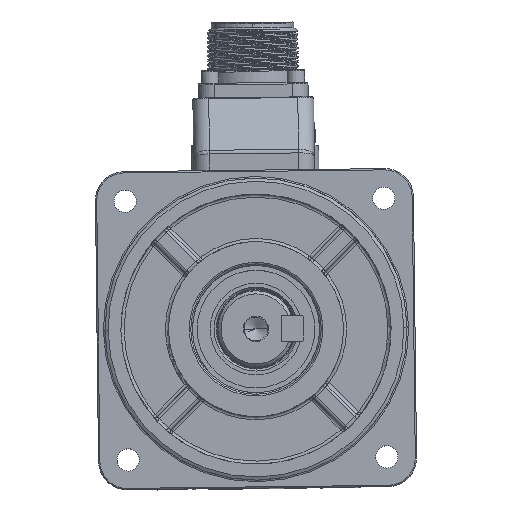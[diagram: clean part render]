
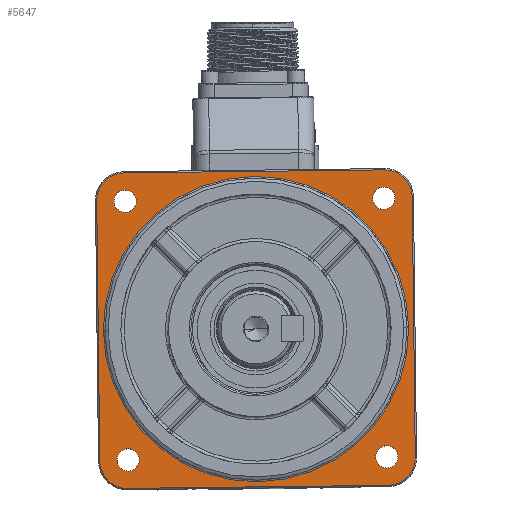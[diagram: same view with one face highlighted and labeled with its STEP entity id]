
A CAD part, top view. The second image highlights one B-rep face of the part: STEP entity #5647.
In plain terms, the highlighted planar face has unit normal (0, 0, 1) as drawn and (0, 1, 0) by its records, which use the part's own axes.
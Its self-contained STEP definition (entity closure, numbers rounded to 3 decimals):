
#150=CARTESIAN_POINT('',(0.,0.,0.));
#151=DIRECTION('',(0.,-1.,0.));
#152=DIRECTION('',(-1.,0.,0.006));
#153=AXIS2_PLACEMENT_3D('',#150,#151,#152);
#170=CARTESIAN_POINT('',(0.,0.,0.));
#171=DIRECTION('',(0.,-1.,0.));
#172=DIRECTION('',(1.,0.,-0.006));
#173=AXIS2_PLACEMENT_3D('',#170,#171,#172);
#175=CARTESIAN_POINT('',(-41.,0.,-41.));
#176=DIRECTION('',(0.,-1.,0.));
#177=DIRECTION('',(-1.,0.,0.));
#178=AXIS2_PLACEMENT_3D('',#175,#176,#177);
#180=CARTESIAN_POINT('',(41.,0.,-41.));
#181=DIRECTION('',(0.,-1.,0.));
#182=DIRECTION('',(0.,0.,-1.));
#183=AXIS2_PLACEMENT_3D('',#180,#181,#182);
#185=CARTESIAN_POINT('',(41.,0.,41.));
#186=DIRECTION('',(0.,-1.,0.));
#187=DIRECTION('',(1.,0.,0.));
#188=AXIS2_PLACEMENT_3D('',#185,#186,#187);
#190=CARTESIAN_POINT('',(-41.,0.,41.));
#191=DIRECTION('',(0.,-1.,0.));
#192=DIRECTION('',(0.,0.,1.));
#193=AXIS2_PLACEMENT_3D('',#190,#191,#192);
#195=CARTESIAN_POINT('',(-40.659,0.,-40.659));
#196=DIRECTION('',(0.,1.,0.));
#197=DIRECTION('',(0.,0.,1.));
#198=AXIS2_PLACEMENT_3D('',#195,#196,#197);
#200=CARTESIAN_POINT('',(-40.659,0.,-40.659));
#201=DIRECTION('',(0.,1.,0.));
#202=DIRECTION('',(0.,0.,-1.));
#203=AXIS2_PLACEMENT_3D('',#200,#201,#202);
#205=CARTESIAN_POINT('',(-40.659,0.,40.659));
#206=DIRECTION('',(0.,1.,0.));
#207=DIRECTION('',(1.,0.,0.));
#208=AXIS2_PLACEMENT_3D('',#205,#206,#207);
#210=CARTESIAN_POINT('',(-40.659,0.,40.659));
#211=DIRECTION('',(0.,1.,0.));
#212=DIRECTION('',(-1.,0.,0.));
#213=AXIS2_PLACEMENT_3D('',#210,#211,#212);
#215=CARTESIAN_POINT('',(40.659,0.,40.659));
#216=DIRECTION('',(0.,1.,0.));
#217=DIRECTION('',(0.,0.,-1.));
#218=AXIS2_PLACEMENT_3D('',#215,#216,#217);
#220=CARTESIAN_POINT('',(40.659,0.,40.659));
#221=DIRECTION('',(0.,1.,0.));
#222=DIRECTION('',(0.,0.,1.));
#223=AXIS2_PLACEMENT_3D('',#220,#221,#222);
#225=CARTESIAN_POINT('',(0.,0.,0.));
#226=DIRECTION('',(0.,1.,0.));
#227=DIRECTION('',(-1.,0.,0.006));
#228=AXIS2_PLACEMENT_3D('',#225,#226,#227);
#230=CARTESIAN_POINT('',(0.,0.,0.));
#231=DIRECTION('',(0.,1.,0.));
#232=DIRECTION('',(1.,0.,-0.006));
#233=AXIS2_PLACEMENT_3D('',#230,#231,#232);
#235=CARTESIAN_POINT('',(40.659,0.,-40.659));
#236=DIRECTION('',(0.,1.,0.));
#237=DIRECTION('',(-1.,0.,0.));
#238=AXIS2_PLACEMENT_3D('',#235,#236,#237);
#240=CARTESIAN_POINT('',(40.659,0.,-40.659));
#241=DIRECTION('',(0.,1.,0.));
#242=DIRECTION('',(1.,0.,0.));
#243=AXIS2_PLACEMENT_3D('',#240,#241,#242);
#254=DIRECTION('',(0.,0.,1.));
#255=VECTOR('',#254,82.);
#256=CARTESIAN_POINT('',(-49.6,0.,
-41.));
#257=LINE('',#256,#255);
#271=DIRECTION('',(1.,0.,0.));
#272=VECTOR('',#271,82.);
#273=CARTESIAN_POINT('',(-41.,0.,
49.6));
#274=LINE('',#273,#272);
#288=DIRECTION('',(0.,0.,-1.));
#289=VECTOR('',#288,82.);
#290=CARTESIAN_POINT('',(49.6,0.,41.));
#291=LINE('',#290,#289);
#305=DIRECTION('',(-1.,0.,0.));
#306=VECTOR('',#305,82.);
#307=CARTESIAN_POINT('',(41.,0.,
-49.6));
#308=LINE('',#307,#306);
#4379=CARTESIAN_POINT('',(48.,0.,0.));
#4380=VERTEX_POINT('',#4379);
#4381=CARTESIAN_POINT('',(-47.999,0.,0.284));
#4382=VERTEX_POINT('',#4381);
#4383=CARTESIAN_POINT('',(-48.,0.,0.));
#4384=VERTEX_POINT('',#4383);
#4385=CARTESIAN_POINT('',(47.999,0.,-0.284));
#4386=VERTEX_POINT('',#4385);
#4387=CARTESIAN_POINT('',(-49.6,0.,-41.));
#4388=CARTESIAN_POINT('',(-41.,0.,-49.6));
#4389=VERTEX_POINT('',#4387);
#4390=VERTEX_POINT('',#4388);
#4391=CARTESIAN_POINT('',(41.,0.,
-49.6));
#4392=VERTEX_POINT('',#4391);
#4393=CARTESIAN_POINT('',(49.6,0.,-41.));
#4394=VERTEX_POINT('',#4393);
#4395=CARTESIAN_POINT('',(49.6,0.,
41.));
#4396=VERTEX_POINT('',#4395);
#4397=CARTESIAN_POINT('',(41.,0.,49.6));
#4398=VERTEX_POINT('',#4397);
#4399=CARTESIAN_POINT('',(-41.,0.,
49.6));
#4400=VERTEX_POINT('',#4399);
#4401=CARTESIAN_POINT('',(-49.6,0.,41.));
#4402=VERTEX_POINT('',#4401);
#4403=CARTESIAN_POINT('',(-40.659,0.,-37.159));
#4404=CARTESIAN_POINT('',(-40.659,0.,-44.159));
#4405=VERTEX_POINT('',#4403);
#4406=VERTEX_POINT('',#4404);
#4407=CARTESIAN_POINT('',(-37.159,0.,40.659));
#4408=CARTESIAN_POINT('',(-44.159,0.,40.659));
#4409=VERTEX_POINT('',#4407);
#4410=VERTEX_POINT('',#4408);
#4411=CARTESIAN_POINT('',(40.659,0.,37.159));
#4412=CARTESIAN_POINT('',(40.659,0.,44.159));
#4413=VERTEX_POINT('',#4411);
#4414=VERTEX_POINT('',#4412);
#4415=CARTESIAN_POINT('',(37.159,0.,-40.659));
#4416=CARTESIAN_POINT('',(44.159,0.,-40.659));
#4417=VERTEX_POINT('',#4415);
#4418=VERTEX_POINT('',#4416);
#5594=CARTESIAN_POINT('',(0.,0.,0.));
#5595=DIRECTION('',(0.,-1.,0.));
#5596=DIRECTION('',(-1.,0.,0.));
#5597=AXIS2_PLACEMENT_3D('',#5594,#5595,#5596);
#5598=PLANE('',#5597);
#5600=ORIENTED_EDGE('',*,*,#5599,.T.);
#5602=ORIENTED_EDGE('',*,*,#5601,.F.);
#5604=ORIENTED_EDGE('',*,*,#5603,.T.);
#5606=ORIENTED_EDGE('',*,*,#5605,.F.);
#5608=ORIENTED_EDGE('',*,*,#5607,.T.);
#5610=ORIENTED_EDGE('',*,*,#5609,.F.);
#5612=ORIENTED_EDGE('',*,*,#5611,.T.);
#5614=ORIENTED_EDGE('',*,*,#5613,.F.);
#5615=EDGE_LOOP('',(#5600,#5602,#5604,#5606,#5608,#5610,#5612,#5614));
#5616=FACE_OUTER_BOUND('',#5615,.F.);
#5618=ORIENTED_EDGE('',*,*,#5617,.T.);
#5620=ORIENTED_EDGE('',*,*,#5619,.T.);
#5621=EDGE_LOOP('',(#5618,#5620));
#5622=FACE_BOUND('',#5621,.F.);
#5624=ORIENTED_EDGE('',*,*,#5623,.T.);
#5626=ORIENTED_EDGE('',*,*,#5625,.T.);
#5627=EDGE_LOOP('',(#5624,#5626));
#5628=FACE_BOUND('',#5627,.F.);
#5630=ORIENTED_EDGE('',*,*,#5629,.T.);
#5632=ORIENTED_EDGE('',*,*,#5631,.T.);
#5633=EDGE_LOOP('',(#5630,#5632));
#5634=FACE_BOUND('',#5633,.F.);
#5635=ORIENTED_EDGE('',*,*,#5571,.F.);
#5636=ORIENTED_EDGE('',*,*,#5569,.T.);
#5637=ORIENTED_EDGE('',*,*,#5588,.F.);
#5638=ORIENTED_EDGE('',*,*,#5586,.T.);
#5639=EDGE_LOOP('',(#5635,#5636,#5637,#5638));
#5640=FACE_BOUND('',#5639,.F.);
#5642=ORIENTED_EDGE('',*,*,#5641,.T.);
#5644=ORIENTED_EDGE('',*,*,#5643,.T.);
#5645=EDGE_LOOP('',(#5642,#5644));
#5646=FACE_BOUND('',#5645,.F.);
#5647=ADVANCED_FACE('',(#5616,#5622,#5628,#5634,#5640,#5646),#5598,.F.);
#154=CIRCLE('',#153,48.);
#174=CIRCLE('',#173,48.);
#179=CIRCLE('',#178,8.6);
#184=CIRCLE('',#183,8.6);
#189=CIRCLE('',#188,8.6);
#194=CIRCLE('',#193,8.6);
#199=CIRCLE('',#198,3.5);
#204=CIRCLE('',#203,3.5);
#209=CIRCLE('',#208,3.5);
#214=CIRCLE('',#213,3.5);
#219=CIRCLE('',#218,3.5);
#224=CIRCLE('',#223,3.5);
#229=CIRCLE('',#228,48.);
#234=CIRCLE('',#233,48.);
#239=CIRCLE('',#238,3.5);
#244=CIRCLE('',#243,3.5);
#5569=EDGE_CURVE('',#4382,#4380,#229,.T.);
#5571=EDGE_CURVE('',#4382,#4384,#154,.T.);
#5586=EDGE_CURVE('',#4386,#4384,#234,.T.);
#5588=EDGE_CURVE('',#4386,#4380,#174,.T.);
#5599=EDGE_CURVE('',#4389,#4390,#179,.T.);
#5601=EDGE_CURVE('',#4392,#4390,#308,.T.);
#5603=EDGE_CURVE('',#4392,#4394,#184,.T.);
#5605=EDGE_CURVE('',#4396,#4394,#291,.T.);
#5607=EDGE_CURVE('',#4396,#4398,#189,.T.);
#5609=EDGE_CURVE('',#4400,#4398,#274,.T.);
#5611=EDGE_CURVE('',#4400,#4402,#194,.T.);
#5613=EDGE_CURVE('',#4389,#4402,#257,.T.);
#5617=EDGE_CURVE('',#4405,#4406,#199,.T.);
#5619=EDGE_CURVE('',#4406,#4405,#204,.T.);
#5623=EDGE_CURVE('',#4409,#4410,#209,.T.);
#5625=EDGE_CURVE('',#4410,#4409,#214,.T.);
#5629=EDGE_CURVE('',#4413,#4414,#219,.T.);
#5631=EDGE_CURVE('',#4414,#4413,#224,.T.);
#5641=EDGE_CURVE('',#4417,#4418,#239,.T.);
#5643=EDGE_CURVE('',#4418,#4417,#244,.T.);
